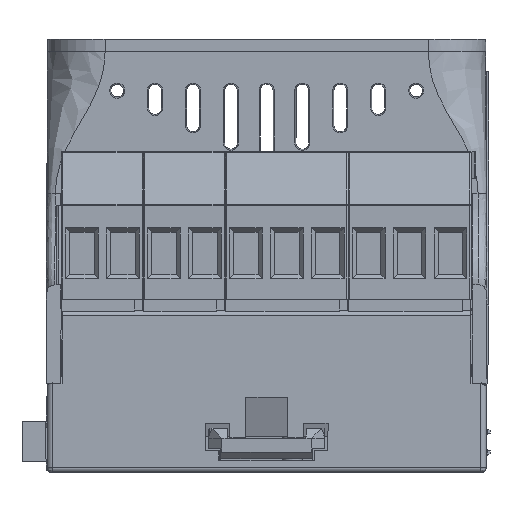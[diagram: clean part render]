
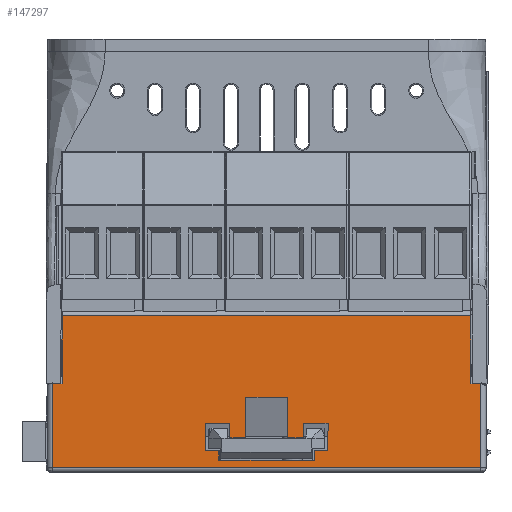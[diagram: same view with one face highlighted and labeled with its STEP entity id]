
A CAD part, front view. The second image highlights one B-rep face of the part: STEP entity #147297.
In plain terms, the highlighted planar face has unit normal (0, -1, 0).
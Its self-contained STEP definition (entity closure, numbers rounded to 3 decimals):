
#943=FACE_BOUND('',#48499,.T.);
#8699=LINE('',#221167,#25969);
#8863=LINE('',#223089,#26133);
#8893=LINE('',#223347,#26163);
#8896=LINE('',#223358,#26166);
#8946=LINE('',#223488,#26216);
#8987=LINE('',#223570,#26257);
#9497=LINE('',#224783,#26767);
#9500=LINE('',#224788,#26770);
#9502=LINE('',#224792,#26772);
#9504=LINE('',#224796,#26774);
#9508=LINE('',#224802,#26778);
#9510=LINE('',#224806,#26780);
#9511=LINE('',#224809,#26781);
#9514=LINE('',#224814,#26784);
#9516=LINE('',#224818,#26786);
#9518=LINE('',#224822,#26788);
#9521=LINE('',#224827,#26791);
#9523=LINE('',#224831,#26793);
#9526=LINE('',#224836,#26796);
#9527=LINE('',#224839,#26797);
#9529=LINE('',#224843,#26799);
#9531=LINE('',#224846,#26801);
#9532=LINE('',#224849,#26802);
#9726=LINE('',#225355,#26996);
#9728=LINE('',#225358,#26998);
#9747=LINE('',#225402,#27017);
#25969=VECTOR('',#173176,1.);
#26133=VECTOR('',#173644,1.);
#26163=VECTOR('',#173722,1.);
#26166=VECTOR('',#173735,1.);
#26216=VECTOR('',#173847,1.);
#26257=VECTOR('',#173922,1.);
#26767=VECTOR('',#175010,1.);
#26770=VECTOR('',#175015,1.);
#26772=VECTOR('',#175019,1.);
#26774=VECTOR('',#175023,1.);
#26778=VECTOR('',#175029,1.);
#26780=VECTOR('',#175033,1.);
#26781=VECTOR('',#175036,1.);
#26784=VECTOR('',#175041,1.);
#26786=VECTOR('',#175045,1.);
#26788=VECTOR('',#175049,1.);
#26791=VECTOR('',#175054,1.);
#26793=VECTOR('',#175058,1.);
#26796=VECTOR('',#175063,1.);
#26797=VECTOR('',#175066,1.);
#26799=VECTOR('',#175070,1.);
#26801=VECTOR('',#175074,1.);
#26802=VECTOR('',#175077,1.);
#26996=VECTOR('',#175559,1.);
#26998=VECTOR('',#175563,1.);
#27017=VECTOR('',#175610,1.);
#40615=FACE_OUTER_BOUND('',#48498,.T.);
#48498=EDGE_LOOP('',(#105277,#105278,#105279,#105280,#105281,#105282,#105283,
#105284,#105285,#105286));
#48499=EDGE_LOOP('',(#105287,#105288,#105289,#105290,#105291,#105292,#105293,
#105294,#105295,#105296,#105297,#105298,#105299,#105300,#105301,#105302));
#59920=VERTEX_POINT('',#220387);
#60004=VERTEX_POINT('',#221165);
#60143=VERTEX_POINT('',#223086);
#60144=VERTEX_POINT('',#223088);
#60168=VERTEX_POINT('',#223345);
#60171=VERTEX_POINT('',#223357);
#60219=VERTEX_POINT('',#223485);
#60220=VERTEX_POINT('',#223487);
#60626=VERTEX_POINT('',#224679);
#60648=VERTEX_POINT('',#224780);
#60649=VERTEX_POINT('',#224782);
#60650=VERTEX_POINT('',#224786);
#60651=VERTEX_POINT('',#224790);
#60652=VERTEX_POINT('',#224795);
#60653=VERTEX_POINT('',#224800);
#60654=VERTEX_POINT('',#224804);
#60655=VERTEX_POINT('',#224808);
#60656=VERTEX_POINT('',#224813);
#60657=VERTEX_POINT('',#224817);
#60658=VERTEX_POINT('',#224821);
#60659=VERTEX_POINT('',#224826);
#60660=VERTEX_POINT('',#224830);
#60661=VERTEX_POINT('',#224834);
#60662=VERTEX_POINT('',#224838);
#60663=VERTEX_POINT('',#224842);
#60664=VERTEX_POINT('',#224848);
#75740=EDGE_CURVE('',#59920,#60004,#8699,.T.);
#75994=EDGE_CURVE('',#60144,#60143,#8863,.T.);
#76038=EDGE_CURVE('',#60004,#60168,#8893,.T.);
#76043=EDGE_CURVE('',#60171,#60144,#8896,.T.);
#76109=EDGE_CURVE('',#60220,#60219,#8946,.T.);
#76153=EDGE_CURVE('',#60171,#60219,#8987,.T.);
#76759=EDGE_CURVE('',#60649,#60648,#9497,.T.);
#76762=EDGE_CURVE('',#60650,#60649,#9500,.T.);
#76764=EDGE_CURVE('',#60650,#60651,#9502,.T.);
#76766=EDGE_CURVE('',#60651,#60652,#9504,.T.);
#76770=EDGE_CURVE('',#60653,#60652,#9508,.T.);
#76772=EDGE_CURVE('',#60653,#60654,#9510,.T.);
#76773=EDGE_CURVE('',#60655,#60654,#9511,.T.);
#76776=EDGE_CURVE('',#60655,#60656,#9514,.T.);
#76778=EDGE_CURVE('',#60657,#60656,#9516,.T.);
#76780=EDGE_CURVE('',#60657,#60658,#9518,.T.);
#76783=EDGE_CURVE('',#60658,#60659,#9521,.T.);
#76785=EDGE_CURVE('',#60660,#60659,#9523,.T.);
#76788=EDGE_CURVE('',#60661,#60660,#9526,.T.);
#76789=EDGE_CURVE('',#60662,#60661,#9527,.T.);
#76791=EDGE_CURVE('',#60663,#60662,#9529,.T.);
#76793=EDGE_CURVE('',#60648,#60663,#9531,.T.);
#76794=EDGE_CURVE('',#60664,#60626,#9532,.T.);
#77022=EDGE_CURVE('',#60626,#59920,#9726,.T.);
#77024=EDGE_CURVE('',#60168,#60220,#9728,.T.);
#77046=EDGE_CURVE('',#60143,#60664,#9747,.T.);
#105277=ORIENTED_EDGE('',*,*,#77046,.T.);
#105278=ORIENTED_EDGE('',*,*,#76794,.T.);
#105279=ORIENTED_EDGE('',*,*,#77022,.T.);
#105280=ORIENTED_EDGE('',*,*,#75740,.T.);
#105281=ORIENTED_EDGE('',*,*,#76038,.T.);
#105282=ORIENTED_EDGE('',*,*,#77024,.T.);
#105283=ORIENTED_EDGE('',*,*,#76109,.T.);
#105284=ORIENTED_EDGE('',*,*,#76153,.F.);
#105285=ORIENTED_EDGE('',*,*,#76043,.T.);
#105286=ORIENTED_EDGE('',*,*,#75994,.T.);
#105287=ORIENTED_EDGE('',*,*,#76793,.T.);
#105288=ORIENTED_EDGE('',*,*,#76791,.T.);
#105289=ORIENTED_EDGE('',*,*,#76789,.T.);
#105290=ORIENTED_EDGE('',*,*,#76788,.T.);
#105291=ORIENTED_EDGE('',*,*,#76785,.T.);
#105292=ORIENTED_EDGE('',*,*,#76783,.F.);
#105293=ORIENTED_EDGE('',*,*,#76780,.F.);
#105294=ORIENTED_EDGE('',*,*,#76778,.T.);
#105295=ORIENTED_EDGE('',*,*,#76776,.F.);
#105296=ORIENTED_EDGE('',*,*,#76773,.T.);
#105297=ORIENTED_EDGE('',*,*,#76772,.F.);
#105298=ORIENTED_EDGE('',*,*,#76770,.T.);
#105299=ORIENTED_EDGE('',*,*,#76766,.F.);
#105300=ORIENTED_EDGE('',*,*,#76764,.F.);
#105301=ORIENTED_EDGE('',*,*,#76762,.T.);
#105302=ORIENTED_EDGE('',*,*,#76759,.T.);
#133793=PLANE('',#155661);
#147297=ADVANCED_FACE('',(#40615,#943),#133793,.F.);
#155661=AXIS2_PLACEMENT_3D('',#225401,#175608,#175609);
#173176=DIRECTION('',(-1.,0.,0.));
#173644=DIRECTION('',(-1.,0.,0.));
#173722=DIRECTION('',(-1.,0.,0.));
#173735=DIRECTION('',(-1.,0.,0.));
#173847=DIRECTION('',(-1.,0.,0.));
#173922=DIRECTION('',(0.,0.,1.));
#175010=DIRECTION('',(1.,0.,0.));
#175015=DIRECTION('',(-0.009,0.,-1.));
#175019=DIRECTION('',(-1.,0.,0.009));
#175023=DIRECTION('',(0.009,0.,-1.));
#175029=DIRECTION('',(-1.,0.,0.));
#175033=DIRECTION('',(0.009,0.,-1.));
#175036=DIRECTION('',(-1.,0.,0.));
#175041=DIRECTION('',(0.009,0.,1.));
#175045=DIRECTION('',(-1.,0.,0.));
#175049=DIRECTION('',(0.009,0.,1.));
#175054=DIRECTION('',(-1.,0.,-0.009));
#175058=DIRECTION('',(-0.009,0.,1.));
#175063=DIRECTION('',(1.,0.,0.));
#175066=DIRECTION('',(0.,0.,-1.));
#175070=DIRECTION('',(1.,0.,0.));
#175074=DIRECTION('',(0.,0.,1.));
#175077=DIRECTION('',(1.,0.,0.));
#175559=DIRECTION('',(0.,0.,1.));
#175563=DIRECTION('',(0.,0.,1.));
#175608=DIRECTION('center_axis',(0.,1.,0.));
#175609=DIRECTION('ref_axis',(0.,0.,
1.));
#175610=DIRECTION('',(0.,0.,-1.));
#220387=CARTESIAN_POINT('',(26.15,-44.644,4.871));
#221165=CARTESIAN_POINT('',(25.14,-44.644,4.871));
#221167=CARTESIAN_POINT('',(25.908,-44.644,4.871));
#223086=CARTESIAN_POINT('',(-26.15,-44.644,4.871));
#223088=CARTESIAN_POINT('',(-25.14,-44.644,4.871));
#223089=CARTESIAN_POINT('',(-25.908,-44.644,4.871));
#223345=CARTESIAN_POINT('',(24.941,-44.644,4.871));
#223347=CARTESIAN_POINT('',(25.908,-44.644,4.871));
#223357=CARTESIAN_POINT('',(-24.941,-44.644,4.871));
#223358=CARTESIAN_POINT('',(-25.908,-44.644,4.871));
#223485=CARTESIAN_POINT('',(-24.941,-44.644,13.156));
#223487=CARTESIAN_POINT('',(24.941,-44.644,13.156));
#223488=CARTESIAN_POINT('',(-38.979,-44.644,13.156));
#223570=CARTESIAN_POINT('',(-24.941,-44.644,17.506));
#224679=CARTESIAN_POINT('',(26.15,-44.644,-5.4));
#224780=CARTESIAN_POINT('',(-2.55,-44.644,-1.725));
#224782=CARTESIAN_POINT('',(-4.498,-44.644,-1.725));
#224783=CARTESIAN_POINT('',(38.979,-44.644,-1.725));
#224786=CARTESIAN_POINT('',(-4.483,-44.644,-0.015));
#224788=CARTESIAN_POINT('',(-4.443,-44.644,4.558));
#224790=CARTESIAN_POINT('',(-7.496,-44.644,0.011));
#224792=CARTESIAN_POINT('',(-3.784,-44.644,-0.021));
#224795=CARTESIAN_POINT('',(-7.467,-44.644,-3.32));
#224796=CARTESIAN_POINT('',(-7.645,-44.644,17.1));
#224800=CARTESIAN_POINT('',(-5.867,-44.644,-3.32));
#224802=CARTESIAN_POINT('',(-3.728,-44.644,-3.32));
#224804=CARTESIAN_POINT('',(-5.857,-44.644,-4.5));
#224806=CARTESIAN_POINT('',(-5.855,-44.644,-4.646));
#224808=CARTESIAN_POINT('',(5.857,-44.644,-4.5));
#224809=CARTESIAN_POINT('',(-38.979,-44.644,-4.5));
#224813=CARTESIAN_POINT('',(5.867,-44.644,-3.32));
#224814=CARTESIAN_POINT('',(5.855,-44.644,-4.646));
#224817=CARTESIAN_POINT('',(7.467,-44.644,-3.32));
#224818=CARTESIAN_POINT('',(3.728,-44.644,-3.32));
#224821=CARTESIAN_POINT('',(7.496,-44.644,0.011));
#224822=CARTESIAN_POINT('',(7.645,-44.644,17.1));
#224826=CARTESIAN_POINT('',(4.483,-44.644,-0.015));
#224827=CARTESIAN_POINT('',(3.784,-44.644,-0.021));
#224830=CARTESIAN_POINT('',(4.498,-44.644,-1.725));
#224831=CARTESIAN_POINT('',(4.443,-44.644,4.558));
#224834=CARTESIAN_POINT('',(2.55,-44.644,-1.725));
#224836=CARTESIAN_POINT('',(-38.979,-44.644,-1.725));
#224838=CARTESIAN_POINT('',(2.55,-44.644,3.175));
#224839=CARTESIAN_POINT('',(2.55,-44.644,6.016));
#224842=CARTESIAN_POINT('',(-2.55,-44.644,3.175));
#224843=CARTESIAN_POINT('',(-38.979,-44.644,3.175));
#224846=CARTESIAN_POINT('',(-2.55,-44.644,6.016));
#224848=CARTESIAN_POINT('',(-26.15,-44.644,-5.4));
#224849=CARTESIAN_POINT('',(26.15,-44.644,-5.4));
#225355=CARTESIAN_POINT('',(26.15,-44.644,17.506));
#225358=CARTESIAN_POINT('',(24.941,-44.644,17.506));
#225401=CARTESIAN_POINT('Origin',(-38.979,-44.644,17.506));
#225402=CARTESIAN_POINT('',(-26.15,-44.644,17.506));
